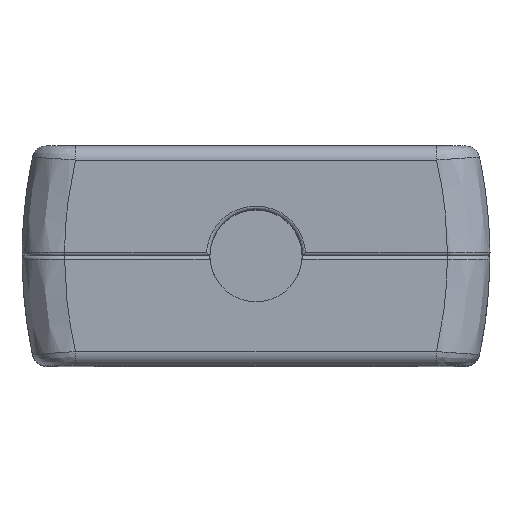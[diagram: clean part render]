
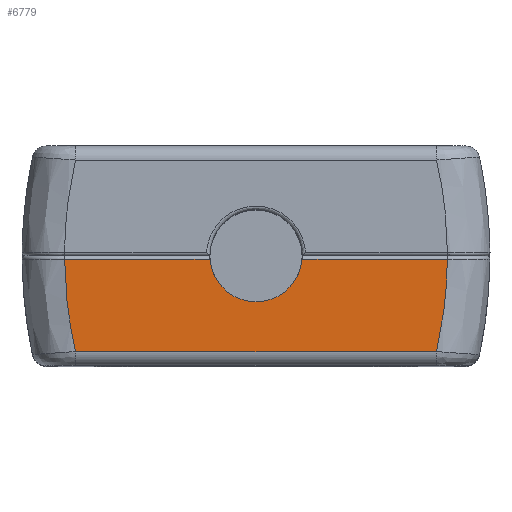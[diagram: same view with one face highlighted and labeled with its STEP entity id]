
A CAD part, top view. The second image highlights one B-rep face of the part: STEP entity #6779.
In plain terms, the highlighted planar face has unit normal (0, 0, 1).
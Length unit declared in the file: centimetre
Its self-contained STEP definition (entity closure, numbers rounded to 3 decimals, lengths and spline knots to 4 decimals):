
#766 = LINE ( 'NONE', #1964, #987 ) ;
#876 = VERTEX_POINT ( 'NONE', #7629 ) ;
#887 = VERTEX_POINT ( 'NONE', #7393 ) ;
#987 = VECTOR ( 'NONE', #1926, 100. ) ;
#1023 = VERTEX_POINT ( 'NONE', #7371 ) ;
#1104 = VERTEX_POINT ( 'NONE', #7509 ) ;
#1237 = VECTOR ( 'NONE', #2057, 100. ) ;
#1239 = LINE ( 'NONE', #2056, #1237 ) ;
#1378 = EDGE_CURVE ( 'NONE', #7718, #1104, #766, .T. ) ;
#1380 = EDGE_CURVE ( 'NONE', #887, #876, #9592, .T. ) ;
#1381 = EDGE_CURVE ( 'NONE', #876, #7715, #1239, .T. ) ;
#1382 = EDGE_CURVE ( 'NONE', #1104, #1023, #9593, .T. ) ;
#1591 = EDGE_CURVE ( 'NONE', #887, #1023, #6041, .T. ) ;
#1747 = AXIS2_PLACEMENT_3D ( 'NONE', #6380, #6381, #6382 ) ;
#1926 = DIRECTION ( 'NONE',  ( -1., 0., 0. ) ) ;
#1942 = CARTESIAN_POINT ( 'NONE',  ( 0.6845, -0.1242, 1.9304 ) ) ;
#1943 = CARTESIAN_POINT ( 'NONE',  ( -0.6714, -0.2343, 1.9304 ) ) ;
#1960 = CARTESIAN_POINT ( 'NONE',  ( 0.6854, -0.0127, 1.9304 ) ) ;
#1964 = CARTESIAN_POINT ( 'NONE',  ( 0., -0.0127, 1.9304 ) ) ;
#1967 = CARTESIAN_POINT ( 'NONE',  ( 0.6714, -0.2343, 1.9304 ) ) ;
#1994 = CARTESIAN_POINT ( 'NONE',  ( -0.6854, -0.0127, 1.9304 ) ) ;
#2027 = CARTESIAN_POINT ( 'NONE',  ( -0.6464, -0.3429, 1.9304 ) ) ;
#2056 = CARTESIAN_POINT ( 'NONE',  ( 0., -0.0127, 1.9304 ) ) ;
#2057 = DIRECTION ( 'NONE',  ( -1., 0., 0. ) ) ;
#2078 = CARTESIAN_POINT ( 'NONE',  ( -0.6845, -0.1242, 1.9304 ) ) ;
#2109 = CARTESIAN_POINT ( 'NONE',  ( 0.6464, -0.3429, 1.9304 ) ) ;
#2305 = EDGE_CURVE ( 'NONE', #7715, #7718, #5735, .T. ) ;
#2697 = AXIS2_PLACEMENT_3D ( 'NONE', #16756, #16761, #16762 ) ;
#4675 = FACE_OUTER_BOUND ( 'NONE', #18640, .T. ) ;
#5735 = CIRCLE ( 'NONE', #1747, 0.1651 ) ;
#5808 = VECTOR ( 'NONE', #9761, 100. ) ;
#6041 = LINE ( 'NONE', #9759, #5808 ) ;
#6380 = CARTESIAN_POINT ( 'NONE',  ( 0., 0., 1.9304 ) ) ;
#6381 = DIRECTION ( 'NONE',  ( 0., 0., -1. ) ) ;
#6382 = DIRECTION ( 'NONE',  ( -1., 0., 0. ) ) ;
#6779 = ADVANCED_FACE ( 'NONE', ( #4675 ), #16758, .T. ) ;
#7371 = CARTESIAN_POINT ( 'NONE',  ( -0.6464, -0.3429, 1.9304 ) ) ;
#7393 = CARTESIAN_POINT ( 'NONE',  ( 0.6464, -0.3429, 1.9304 ) ) ;
#7509 = CARTESIAN_POINT ( 'NONE',  ( -0.6854, -0.0127, 1.9304 ) ) ;
#7629 = CARTESIAN_POINT ( 'NONE',  ( 0.6854, -0.0127, 1.9304 ) ) ;
#7715 = VERTEX_POINT ( 'NONE', #17309 ) ;
#7718 = VERTEX_POINT ( 'NONE', #17312 ) ;
#9592 = B_SPLINE_CURVE_WITH_KNOTS ( 'NONE', 3,
 ( #2109, #1967, #1942, #1960 ),
 .UNSPECIFIED., .F., .F.,
 ( 4, 4 ),
 ( 0., 1. ),
 .UNSPECIFIED. ) ;
#9593 = B_SPLINE_CURVE_WITH_KNOTS ( 'NONE', 3,
 ( #1994, #2078, #1943, #2027 ),
 .UNSPECIFIED., .F., .F.,
 ( 4, 4 ),
 ( 0., 1. ),
 .UNSPECIFIED. ) ;
#9759 = CARTESIAN_POINT ( 'NONE',  ( 0., -0.3429, 1.9304 ) ) ;
#9761 = DIRECTION ( 'NONE',  ( -1., 0., 0. ) ) ;
#16756 = CARTESIAN_POINT ( 'NONE',  ( 0., 0., 1.9304 ) ) ;
#16758 = PLANE ( 'NONE',  #2697 ) ;
#16761 = DIRECTION ( 'NONE',  ( 0., 0., 1. ) ) ;
#16762 = DIRECTION ( 'NONE',  ( 1., 0., 0. ) ) ;
#17309 = CARTESIAN_POINT ( 'NONE',  ( 0.1646, -0.0127, 1.9304 ) ) ;
#17312 = CARTESIAN_POINT ( 'NONE',  ( -0.1646, -0.0127, 1.9304 ) ) ;
#18640 = EDGE_LOOP ( 'NONE', ( #23889, #24422, #24413, #24416, #24308, #24429 ) ) ;
#23889 = ORIENTED_EDGE ( 'NONE', *, *, #1381, .T. ) ;
#24308 = ORIENTED_EDGE ( 'NONE', *, *, #1591, .F. ) ;
#24413 = ORIENTED_EDGE ( 'NONE', *, *, #1378, .T. ) ;
#24416 = ORIENTED_EDGE ( 'NONE', *, *, #1382, .T. ) ;
#24422 = ORIENTED_EDGE ( 'NONE', *, *, #2305, .T. ) ;
#24429 = ORIENTED_EDGE ( 'NONE', *, *, #1380, .T. ) ;
